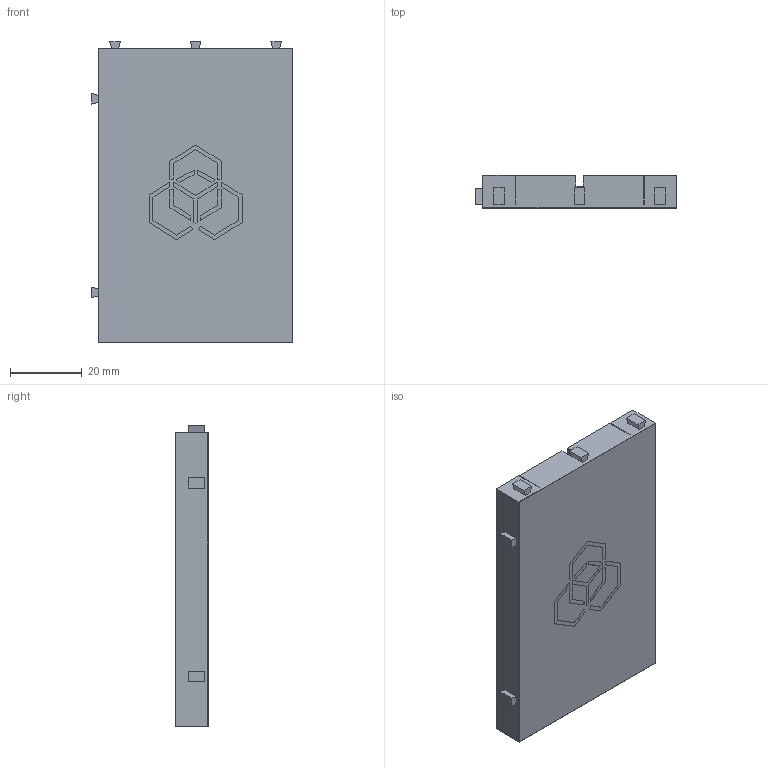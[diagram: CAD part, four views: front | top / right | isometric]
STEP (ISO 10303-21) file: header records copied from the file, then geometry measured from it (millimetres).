
FILE_DESCRIPTION (( 'STEP AP214' ), '1' );
FILE_NAME ('Ìàêåòíàÿ ïëàòà 8,5 x 5,5 ñì.STEP', '2015-09-27T10:20:41', ( '' ), ( '' ), 'SwSTEP 2.0', 'SolidWorks 2015', '' );
FILE_SCHEMA (( 'AUTOMOTIVE_DESIGN' ));
Length unit declared in the file: millimetre
Products named in the file (1): Ìàêåòíàÿ ïëàòà 8,5 x 5,5 ñì
Bounding box: 56 x 9.1 x 84 mm (x, y, z)
Volume: 26677 mm3; surface area: 63434.6 mm2
Topology: 6 solids, 6 shells, 2403 faces, 7104 edges, 4736 vertices
Faces by surface type: plane 2403
Entity records: 106231 total; most frequent: CARTESIAN_POINT 14244, ORIENTED_EDGE 14208, DIRECTION 11912, EDGE_CURVE 7104, LINE 7104, VECTOR 7104, VERTEX_POINT 4736, EDGE_LOOP 3218
